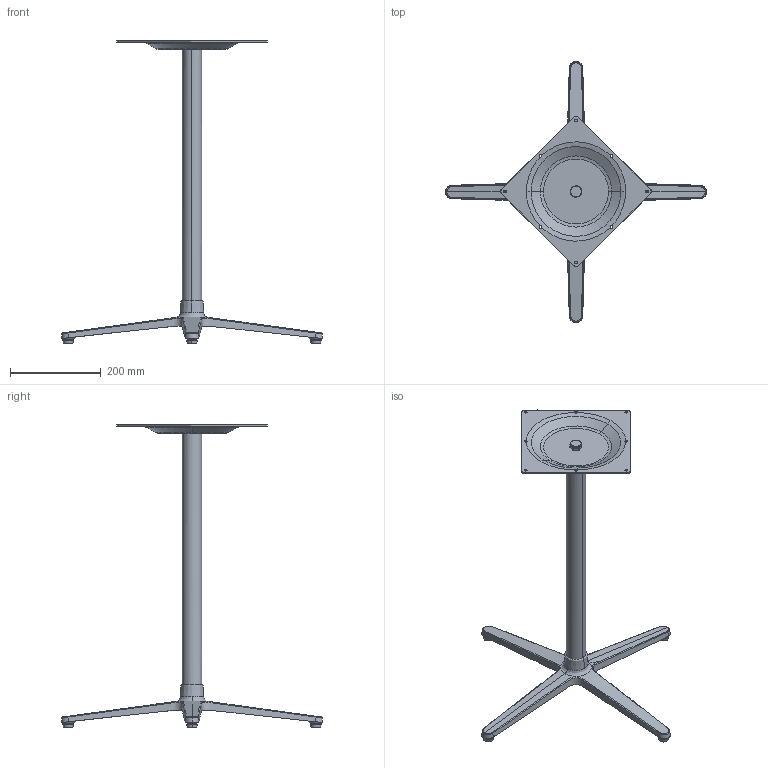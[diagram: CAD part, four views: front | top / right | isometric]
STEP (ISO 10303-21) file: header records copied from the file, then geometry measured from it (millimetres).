
FILE_DESCRIPTION(/* description */ (''),/* implementation_level */ '2;1');
FILE_NAME(/* name */ 'KINOSH~1',/* time_stamp */ '2025-01-17T21:12:45+09:00',/* author */ (''),/* organization */ (''),/* preprocessor_version */ 'ST-DEVELOPER v16.5',/* originating_system */ '',/* authorisation */ '');
FILE_SCHEMA (('AUTOMOTIVE_DESIGN'));
Length unit declared in the file: millimetre
Products named in the file (1): Document
Bounding box: 577 x 577 x 670 mm (x, y, z)
Volume: 1768985 mm3; surface area: 318320.7 mm2
Topology: 5 solids, 5 shells, 183 faces, 443 edges, 266 vertices
Faces by surface type: bspline 130, plane 53
Entity records: 12003 total; most frequent: CARTESIAN_POINT 9453, ORIENTED_EDGE 886, EDGE_CURVE 443, VERTEX_POINT 266, EDGE_LOOP 195, ADVANCED_FACE 183, FACE_OUTER_BOUND 183, B_SPLINE_CURVE_WITH_KNOTS 156
